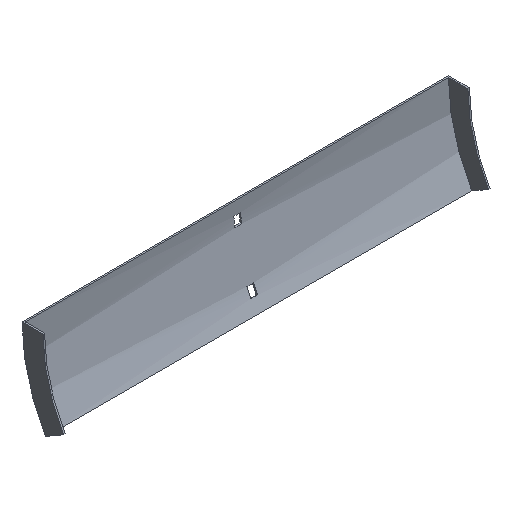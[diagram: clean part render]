
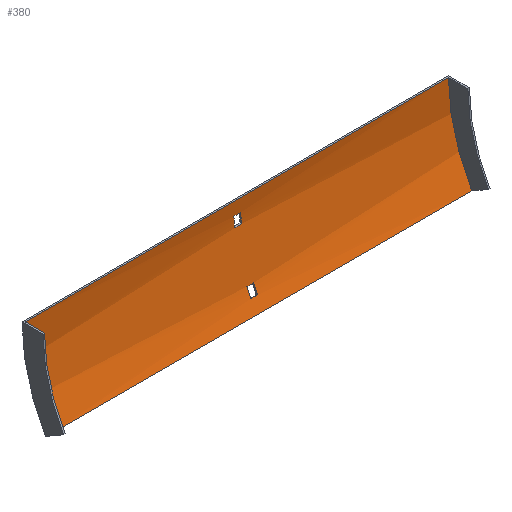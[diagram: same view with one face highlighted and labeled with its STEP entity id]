
A CAD part, isometric view. The second image highlights one B-rep face of the part: STEP entity #380.
In plain terms, the highlighted cylindrical face has radius 165.5 mm (diameter 331 mm), a partial arc.
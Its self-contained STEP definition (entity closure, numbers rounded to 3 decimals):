
#10 = ORIENTED_EDGE ( 'NONE', *, *, #569, .F. ) ;
#11 = AXIS2_PLACEMENT_3D ( 'NONE', #235, #410, #238 ) ;
#15 = DIRECTION ( 'NONE',  ( 1., 0., 0. ) ) ;
#22 = VERTEX_POINT ( 'NONE', #585 ) ;
#32 = DIRECTION ( 'NONE',  ( -1., 0., 0. ) ) ;
#48 = CARTESIAN_POINT ( 'NONE',  ( 202., -1.5, 0. ) ) ;
#49 = EDGE_LOOP ( 'NONE', ( #517, #531, #507, #471 ) ) ;
#51 = VECTOR ( 'NONE', #492, 1000. ) ;
#57 = EDGE_CURVE ( 'NONE', #577, #170, #63, .T. ) ;
#62 = CARTESIAN_POINT ( 'NONE',  ( -3.25, -18.05, -72.14 ) ) ;
#63 = CIRCLE ( 'NONE', #241, 165.5 ) ;
#77 = LINE ( 'NONE', #215, #198 ) ;
#78 = VERTEX_POINT ( 'NONE', #83 ) ;
#83 = CARTESIAN_POINT ( 'NONE',  ( -3.25, -1.936, -12. ) ) ;
#87 = VERTEX_POINT ( 'NONE', #449 ) ;
#89 = CARTESIAN_POINT ( 'NONE',  ( 3.25, -1.936, -12. ) ) ;
#95 = DIRECTION ( 'NONE',  ( -1., 0., 0. ) ) ;
#98 = EDGE_CURVE ( 'NONE', #22, #148, #108, .T. ) ;
#106 = ORIENTED_EDGE ( 'NONE', *, *, #98, .F. ) ;
#107 = EDGE_CURVE ( 'NONE', #148, #78, #123, .T. ) ;
#108 = CIRCLE ( 'NONE', #599, 165.5 ) ;
#109 = CIRCLE ( 'NONE', #257, 165.5 ) ;
#115 = LINE ( 'NONE', #305, #51 ) ;
#117 = VECTOR ( 'NONE', #603, 1000. ) ;
#123 = LINE ( 'NONE', #499, #164 ) ;
#129 = CARTESIAN_POINT ( 'NONE',  ( 203.5, -14.331, -63.895 ) ) ;
#134 = DIRECTION ( 'NONE',  ( 1., 0., 0. ) ) ;
#137 = DIRECTION ( 'NONE',  ( 1., 0., 0. ) ) ;
#138 = VERTEX_POINT ( 'NONE', #601 ) ;
#143 = CARTESIAN_POINT ( 'NONE',  ( 3.25, -14.331, -63.895 ) ) ;
#148 = VERTEX_POINT ( 'NONE', #89 ) ;
#160 = CARTESIAN_POINT ( 'NONE',  ( 3.25, -167., 0. ) ) ;
#161 = EDGE_CURVE ( 'NONE', #427, #138, #403, .T. ) ;
#164 = VECTOR ( 'NONE', #552, 1000. ) ;
#167 = EDGE_CURVE ( 'NONE', #138, #295, #516, .T. ) ;
#170 = VERTEX_POINT ( 'NONE', #284 ) ;
#171 = CARTESIAN_POINT ( 'NONE',  ( -202., -23.673, -82.75 ) ) ;
#193 = VERTEX_POINT ( 'NONE', #62 ) ;
#196 = ORIENTED_EDGE ( 'NONE', *, *, #308, .F. ) ;
#198 = VECTOR ( 'NONE', #444, 1000. ) ;
#202 = CARTESIAN_POINT ( 'NONE',  ( -3.25, -2.838, -21. ) ) ;
#210 = DIRECTION ( 'NONE',  ( 1., 0., 0. ) ) ;
#215 = CARTESIAN_POINT ( 'NONE',  ( 203.5, -2.838, -21. ) ) ;
#219 = DIRECTION ( 'NONE',  ( 0., 0., -1. ) ) ;
#221 = CARTESIAN_POINT ( 'NONE',  ( -202., -1.5, 0. ) ) ;
#223 = ORIENTED_EDGE ( 'NONE', *, *, #107, .F. ) ;
#230 = CIRCLE ( 'NONE', #290, 165.5 ) ;
#232 = EDGE_CURVE ( 'NONE', #170, #193, #546, .T. ) ;
#235 = CARTESIAN_POINT ( 'NONE',  ( 203.5, -167., 0. ) ) ;
#238 = DIRECTION ( 'NONE',  ( 0., 0., 1. ) ) ;
#241 = AXIS2_PLACEMENT_3D ( 'NONE', #160, #307, #493 ) ;
#246 = ORIENTED_EDGE ( 'NONE', *, *, #273, .F. ) ;
#257 = AXIS2_PLACEMENT_3D ( 'NONE', #530, #15, #576 ) ;
#273 = EDGE_CURVE ( 'NONE', #322, #295, #431, .T. ) ;
#278 = FACE_BOUND ( 'NONE', #439, .T. ) ;
#282 = EDGE_CURVE ( 'NONE', #427, #322, #115, .T. ) ;
#284 = CARTESIAN_POINT ( 'NONE',  ( 3.25, -18.05, -72.14 ) ) ;
#286 = FACE_BOUND ( 'NONE', #49, .T. ) ;
#290 = AXIS2_PLACEMENT_3D ( 'NONE', #481, #535, #574 ) ;
#295 = VERTEX_POINT ( 'NONE', #221 ) ;
#305 = CARTESIAN_POINT ( 'NONE',  ( 202., -23.673, -82.75 ) ) ;
#307 = DIRECTION ( 'NONE',  ( -1., 0., 0. ) ) ;
#308 = EDGE_CURVE ( 'NONE', #591, #22, #77, .T. ) ;
#313 = CARTESIAN_POINT ( 'NONE',  ( 203.5, -18.05, -72.14 ) ) ;
#322 = VERTEX_POINT ( 'NONE', #171 ) ;
#328 = DIRECTION ( 'NONE',  ( 0., 0., 1. ) ) ;
#331 = ORIENTED_EDGE ( 'NONE', *, *, #161, .T. ) ;
#365 = CYLINDRICAL_SURFACE ( 'NONE', #11, 165.5 ) ;
#375 = LINE ( 'NONE', #129, #117 ) ;
#380 = ADVANCED_FACE ( 'NONE', ( #278, #464, #286 ), #365, .F. ) ;
#403 = CIRCLE ( 'NONE', #561, 165.5 ) ;
#404 = ORIENTED_EDGE ( 'NONE', *, *, #167, .T. ) ;
#409 = ORIENTED_EDGE ( 'NONE', *, *, #282, .F. ) ;
#410 = DIRECTION ( 'NONE',  ( -1., 0., 0. ) ) ;
#411 = AXIS2_PLACEMENT_3D ( 'NONE', #502, #210, #495 ) ;
#427 = VERTEX_POINT ( 'NONE', #567 ) ;
#431 = CIRCLE ( 'NONE', #411, 165.5 ) ;
#439 = EDGE_LOOP ( 'NONE', ( #10, #223, #106, #196 ) ) ;
#440 = EDGE_CURVE ( 'NONE', #87, #577, #375, .T. ) ;
#444 = DIRECTION ( 'NONE',  ( 1., 0., 0. ) ) ;
#449 = CARTESIAN_POINT ( 'NONE',  ( -3.25, -14.331, -63.895 ) ) ;
#459 = VECTOR ( 'NONE', #95, 1000. ) ;
#464 = FACE_OUTER_BOUND ( 'NONE', #563, .T. ) ;
#471 = ORIENTED_EDGE ( 'NONE', *, *, #57, .T. ) ;
#481 = CARTESIAN_POINT ( 'NONE',  ( -3.25, -167., 0. ) ) ;
#492 = DIRECTION ( 'NONE',  ( -1., 0., 0. ) ) ;
#493 = DIRECTION ( 'NONE',  ( 0., 0., 1. ) ) ;
#495 = DIRECTION ( 'NONE',  ( 0., 0., 1. ) ) ;
#499 = CARTESIAN_POINT ( 'NONE',  ( 203.5, -1.936, -12. ) ) ;
#502 = CARTESIAN_POINT ( 'NONE',  ( -202., -167., 0. ) ) ;
#507 = ORIENTED_EDGE ( 'NONE', *, *, #440, .T. ) ;
#516 = LINE ( 'NONE', #48, #459 ) ;
#517 = ORIENTED_EDGE ( 'NONE', *, *, #232, .T. ) ;
#522 = VECTOR ( 'NONE', #32, 1000. ) ;
#530 = CARTESIAN_POINT ( 'NONE',  ( -3.25, -167., 0. ) ) ;
#531 = ORIENTED_EDGE ( 'NONE', *, *, #550, .T. ) ;
#535 = DIRECTION ( 'NONE',  ( -1., 0., 0. ) ) ;
#546 = LINE ( 'NONE', #313, #522 ) ;
#547 = CARTESIAN_POINT ( 'NONE',  ( 3.25, -167., 0. ) ) ;
#550 = EDGE_CURVE ( 'NONE', #193, #87, #109, .T. ) ;
#552 = DIRECTION ( 'NONE',  ( -1., 0., 0. ) ) ;
#561 = AXIS2_PLACEMENT_3D ( 'NONE', #562, #137, #328 ) ;
#562 = CARTESIAN_POINT ( 'NONE',  ( 202., -167., 0. ) ) ;
#563 = EDGE_LOOP ( 'NONE', ( #246, #409, #331, #404 ) ) ;
#567 = CARTESIAN_POINT ( 'NONE',  ( 202., -23.673, -82.75 ) ) ;
#569 = EDGE_CURVE ( 'NONE', #78, #591, #230, .T. ) ;
#574 = DIRECTION ( 'NONE',  ( 0., 0., 1. ) ) ;
#576 = DIRECTION ( 'NONE',  ( 0., 0., -1. ) ) ;
#577 = VERTEX_POINT ( 'NONE', #143 ) ;
#585 = CARTESIAN_POINT ( 'NONE',  ( 3.25, -2.838, -21. ) ) ;
#591 = VERTEX_POINT ( 'NONE', #202 ) ;
#599 = AXIS2_PLACEMENT_3D ( 'NONE', #547, #134, #219 ) ;
#601 = CARTESIAN_POINT ( 'NONE',  ( 202., -1.5, 0. ) ) ;
#603 = DIRECTION ( 'NONE',  ( 1., 0., 0. ) ) ;
